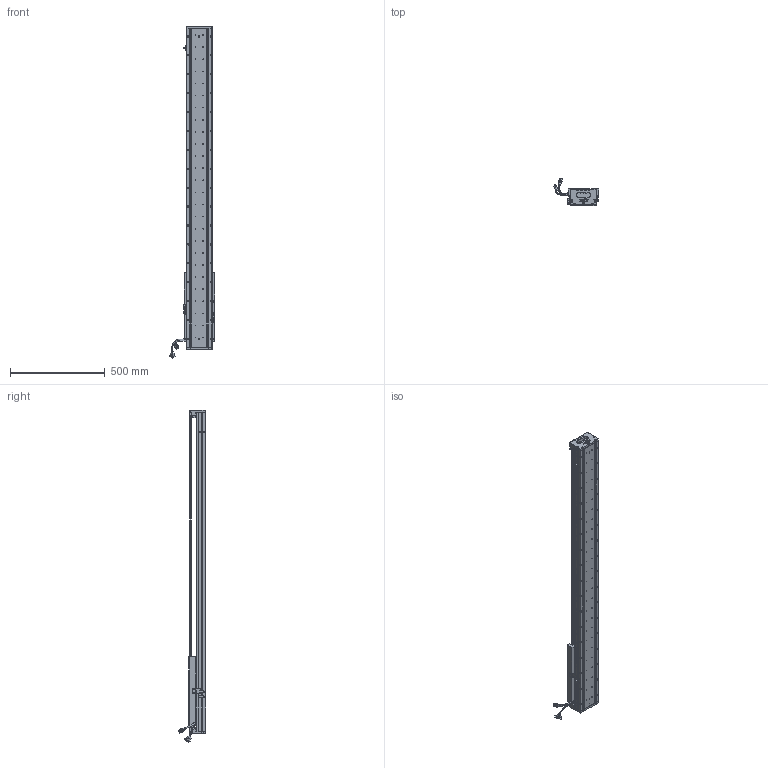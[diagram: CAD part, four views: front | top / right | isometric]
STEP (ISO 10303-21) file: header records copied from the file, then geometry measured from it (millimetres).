
FILE_DESCRIPTION (( 'STEP AP203' ), '1' );
FILE_NAME ('Z5-RY140D-1-L500-B-K.SLDASM_1250.step', '2021-05-17T08:36:19', ( '盈信电脑' ), ( '东莞市道滘镇水果街19号' ), 'SwSTEP 2.0', 'SolidWorks 2016', '' );
FILE_SCHEMA (( 'CONFIG_CONTROL_DESIGN' ));
Length unit declared in the file: millimetre
Products named in the file (36): SCALE-Part-1; COVER-Part-1; HARNESS; SCREW-M1.7; PSLH080_PSLF2; SCALE; COVER; 140-Z-臏賑輸盄裔(21遴); SHIELDPLATE; SCREW-M1.6-1; Z5-RY140圉猾敕臏賑輸(21遴); 140雄赽晤鎢ん堤盄; Z5-RY140-L500詩湍100mm遵_1250; LABEL-Part-1; 榋妏寠巭燃_暯_M2_2; Z-140詩湍傷裔啣; HOLDER0; HARNESS-Part-2; Z5-RY140D-1-L500-B-K.SLDASM_1250; 詩湍狟揤裔; SCREW-M1.7-1; 080黍杅芛假蚾釱21遴; 詩湍奻揤裔; SCREW-M1.6-2; SCALE-Part-2; Z-RY140感应器672光电感应片; PBU_SHEET; HARNESS-Part-1; LABEL; 140蚥薯蝶輸; SCREW-M1.6-3; SCREW-M1.6; SEAL; Z5-RY140-L500直线电机模组底座_1250; SEAL-Part-1; 覜茼ん672
Assembly tree (41 placements, depth 4):
  Z5-RY140D-1-L500-B-K.SLDASM_1250
    Z5-RY140-L500直线电机模组底座_1250
    Z-RY140感应器672光电感应片
    Z5-RY140圉猾敕臏賑輸(21遴)
    覜茼ん672  x3
    Z5-RY140-L500詩湍100mm遵_1250
    PSLH080_PSLF2
      SCALE
        SCALE-Part-1
        SCALE-Part-2
      HARNESS
        HARNESS-Part-1
        HARNESS-Part-2
      LABEL
        LABEL-Part-1
      COVER
        COVER-Part-1
      SEAL
        SEAL-Part-1
      榋妏寠巭燃_暯_M2_2
      SHIELDPLATE
      SCREW-M1.7
      SCREW-M1.7-1
      PBU_SHEET
      SCREW-M1.6
      SCREW-M1.6-1
      SCREW-M1.6-2
      SCREW-M1.6-3
      HOLDER0
    080黍杅芛假蚾釱21遴
    140-Z-臏賑輸盄裔(21遴)
    Z-140詩湍傷裔啣  x2
    詩湍狟揤裔  x2
    詩湍奻揤裔  x2
    140蚥薯蝶輸  x2
    140雄赽晤鎢ん堤盄
Bounding box: 239.83 x 143.88 x 1755.87 mm (x, y, z)
Volume: 6357795.4 mm3; surface area: 1610547.8 mm2
Topology: 36 solids, 36 shells, 3528 faces, 9452 edges, 5991 vertices
Faces by surface type: cylinder 1810, plane 1254, cone 342, torus 69, bspline 53
Entity records: 108004 total; most frequent: CARTESIAN_POINT 28867, ORIENTED_EDGE 15944, DIRECTION 15292, EDGE_CURVE 7972, AXIS2_PLACEMENT_3D 5680, VERTEX_POINT 5159, LINE 3932, VECTOR 3932
